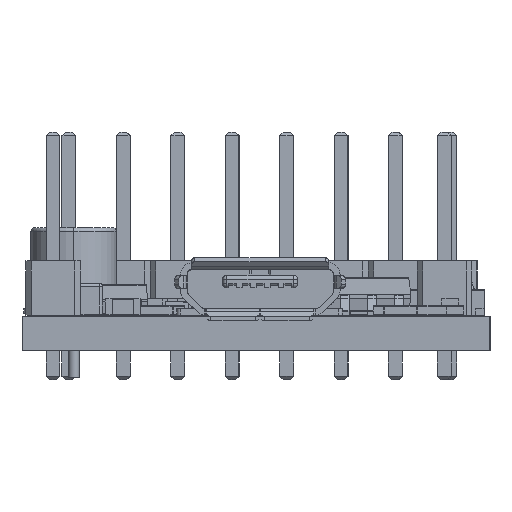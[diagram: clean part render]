
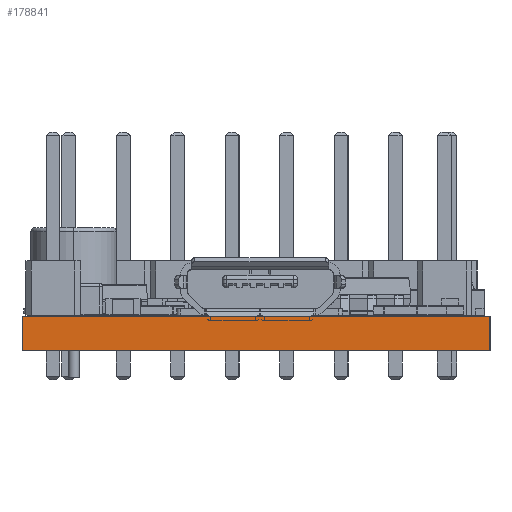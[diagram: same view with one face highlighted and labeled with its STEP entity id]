
A CAD part, left-side view. The second image highlights one B-rep face of the part: STEP entity #178841.
In plain terms, the highlighted planar face has unit normal (-1, 0, 0).
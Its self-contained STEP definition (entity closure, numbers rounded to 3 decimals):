
#178725 = EDGE_CURVE('',#178726,#178728,#178730,.T.);
#178726 = VERTEX_POINT('',#178727);
#178727 = CARTESIAN_POINT('',(98.057,-130.785,0.));
#178728 = VERTEX_POINT('',#178729);
#178729 = CARTESIAN_POINT('',(98.057,-130.785,1.6));
#178730 = SURFACE_CURVE('',#178731,(#178735,#178747),.PCURVE_S1.);
#178731 = LINE('',#178732,#178733);
#178732 = CARTESIAN_POINT('',(98.057,-130.785,0.));
#178733 = VECTOR('',#178734,1.);
#178734 = DIRECTION('',(0.,0.,1.));
#178735 = PCURVE('',#178736,#178741);
#178736 = PLANE('',#178737);
#178737 = AXIS2_PLACEMENT_3D('',#178738,#178739,#178740);
#178738 = CARTESIAN_POINT('',(98.057,-130.785,0.));
#178739 = DIRECTION('',(0.,1.,0.));
#178740 = DIRECTION('',(1.,0.,0.));
#178741 = DEFINITIONAL_REPRESENTATION('',(#178742),#178746);
#178742 = LINE('',#178743,#178744);
#178743 = CARTESIAN_POINT('',(0.,0.));
#178744 = VECTOR('',#178745,1.);
#178745 = DIRECTION('',(0.,-1.));
#178746 = ( GEOMETRIC_REPRESENTATION_CONTEXT(2) 
PARAMETRIC_REPRESENTATION_CONTEXT() REPRESENTATION_CONTEXT('2D SPACE',''
  ) );
#178747 = PCURVE('',#178748,#178753);
#178748 = PLANE('',#178749);
#178749 = AXIS2_PLACEMENT_3D('',#178750,#178751,#178752);
#178750 = CARTESIAN_POINT('',(98.057,-108.941,0.));
#178751 = DIRECTION('',(1.,0.,-0.));
#178752 = DIRECTION('',(0.,-1.,0.));
#178753 = DEFINITIONAL_REPRESENTATION('',(#178754),#178758);
#178754 = LINE('',#178755,#178756);
#178755 = CARTESIAN_POINT('',(21.844,0.));
#178756 = VECTOR('',#178757,1.);
#178757 = DIRECTION('',(0.,-1.));
#178758 = ( GEOMETRIC_REPRESENTATION_CONTEXT(2) 
PARAMETRIC_REPRESENTATION_CONTEXT() REPRESENTATION_CONTEXT('2D SPACE',''
  ) );
#178776 = PLANE('',#178777);
#178777 = AXIS2_PLACEMENT_3D('',#178778,#178779,#178780);
#178778 = CARTESIAN_POINT('',(129.426,-119.863,1.6));
#178779 = DIRECTION('',(0.,0.,1.));
#178780 = DIRECTION('',(1.,0.,-0.));
#178830 = PLANE('',#178831);
#178831 = AXIS2_PLACEMENT_3D('',#178832,#178833,#178834);
#178832 = CARTESIAN_POINT('',(129.426,-119.863,0.));
#178833 = DIRECTION('',(0.,0.,1.));
#178834 = DIRECTION('',(1.,0.,-0.));
#178841 = ADVANCED_FACE('',(#178842),#178748,.F.);
#178842 = FACE_BOUND('',#178843,.F.);
#178843 = EDGE_LOOP('',(#178844,#178874,#178895,#178896));
#178844 = ORIENTED_EDGE('',*,*,#178845,.T.);
#178845 = EDGE_CURVE('',#178846,#178848,#178850,.T.);
#178846 = VERTEX_POINT('',#178847);
#178847 = CARTESIAN_POINT('',(98.057,-108.941,0.));
#178848 = VERTEX_POINT('',#178849);
#178849 = CARTESIAN_POINT('',(98.057,-108.941,1.6));
#178850 = SURFACE_CURVE('',#178851,(#178855,#178862),.PCURVE_S1.);
#178851 = LINE('',#178852,#178853);
#178852 = CARTESIAN_POINT('',(98.057,-108.941,0.));
#178853 = VECTOR('',#178854,1.);
#178854 = DIRECTION('',(0.,0.,1.));
#178855 = PCURVE('',#178748,#178856);
#178856 = DEFINITIONAL_REPRESENTATION('',(#178857),#178861);
#178857 = LINE('',#178858,#178859);
#178858 = CARTESIAN_POINT('',(0.,0.));
#178859 = VECTOR('',#178860,1.);
#178860 = DIRECTION('',(0.,-1.));
#178861 = ( GEOMETRIC_REPRESENTATION_CONTEXT(2) 
PARAMETRIC_REPRESENTATION_CONTEXT() REPRESENTATION_CONTEXT('2D SPACE',''
  ) );
#178862 = PCURVE('',#178863,#178868);
#178863 = PLANE('',#178864);
#178864 = AXIS2_PLACEMENT_3D('',#178865,#178866,#178867);
#178865 = CARTESIAN_POINT('',(160.795,-108.941,0.));
#178866 = DIRECTION('',(0.,-1.,0.));
#178867 = DIRECTION('',(-1.,0.,0.));
#178868 = DEFINITIONAL_REPRESENTATION('',(#178869),#178873);
#178869 = LINE('',#178870,#178871);
#178870 = CARTESIAN_POINT('',(62.738,0.));
#178871 = VECTOR('',#178872,1.);
#178872 = DIRECTION('',(0.,-1.));
#178873 = ( GEOMETRIC_REPRESENTATION_CONTEXT(2) 
PARAMETRIC_REPRESENTATION_CONTEXT() REPRESENTATION_CONTEXT('2D SPACE',''
  ) );
#178874 = ORIENTED_EDGE('',*,*,#178875,.T.);
#178875 = EDGE_CURVE('',#178848,#178728,#178876,.T.);
#178876 = SURFACE_CURVE('',#178877,(#178881,#178888),.PCURVE_S1.);
#178877 = LINE('',#178878,#178879);
#178878 = CARTESIAN_POINT('',(98.057,-108.941,1.6));
#178879 = VECTOR('',#178880,1.);
#178880 = DIRECTION('',(0.,-1.,0.));
#178881 = PCURVE('',#178748,#178882);
#178882 = DEFINITIONAL_REPRESENTATION('',(#178883),#178887);
#178883 = LINE('',#178884,#178885);
#178884 = CARTESIAN_POINT('',(0.,-1.6));
#178885 = VECTOR('',#178886,1.);
#178886 = DIRECTION('',(1.,0.));
#178887 = ( GEOMETRIC_REPRESENTATION_CONTEXT(2) 
PARAMETRIC_REPRESENTATION_CONTEXT() REPRESENTATION_CONTEXT('2D SPACE',''
  ) );
#178888 = PCURVE('',#178776,#178889);
#178889 = DEFINITIONAL_REPRESENTATION('',(#178890),#178894);
#178890 = LINE('',#178891,#178892);
#178891 = CARTESIAN_POINT('',(-31.369,10.922));
#178892 = VECTOR('',#178893,1.);
#178893 = DIRECTION('',(0.,-1.));
#178894 = ( GEOMETRIC_REPRESENTATION_CONTEXT(2) 
PARAMETRIC_REPRESENTATION_CONTEXT() REPRESENTATION_CONTEXT('2D SPACE',''
  ) );
#178895 = ORIENTED_EDGE('',*,*,#178725,.F.);
#178896 = ORIENTED_EDGE('',*,*,#178897,.F.);
#178897 = EDGE_CURVE('',#178846,#178726,#178898,.T.);
#178898 = SURFACE_CURVE('',#178899,(#178903,#178910),.PCURVE_S1.);
#178899 = LINE('',#178900,#178901);
#178900 = CARTESIAN_POINT('',(98.057,-108.941,0.));
#178901 = VECTOR('',#178902,1.);
#178902 = DIRECTION('',(0.,-1.,0.));
#178903 = PCURVE('',#178748,#178904);
#178904 = DEFINITIONAL_REPRESENTATION('',(#178905),#178909);
#178905 = LINE('',#178906,#178907);
#178906 = CARTESIAN_POINT('',(0.,0.));
#178907 = VECTOR('',#178908,1.);
#178908 = DIRECTION('',(1.,0.));
#178909 = ( GEOMETRIC_REPRESENTATION_CONTEXT(2) 
PARAMETRIC_REPRESENTATION_CONTEXT() REPRESENTATION_CONTEXT('2D SPACE',''
  ) );
#178910 = PCURVE('',#178830,#178911);
#178911 = DEFINITIONAL_REPRESENTATION('',(#178912),#178916);
#178912 = LINE('',#178913,#178914);
#178913 = CARTESIAN_POINT('',(-31.369,10.922));
#178914 = VECTOR('',#178915,1.);
#178915 = DIRECTION('',(0.,-1.));
#178916 = ( GEOMETRIC_REPRESENTATION_CONTEXT(2) 
PARAMETRIC_REPRESENTATION_CONTEXT() REPRESENTATION_CONTEXT('2D SPACE',''
  ) );
